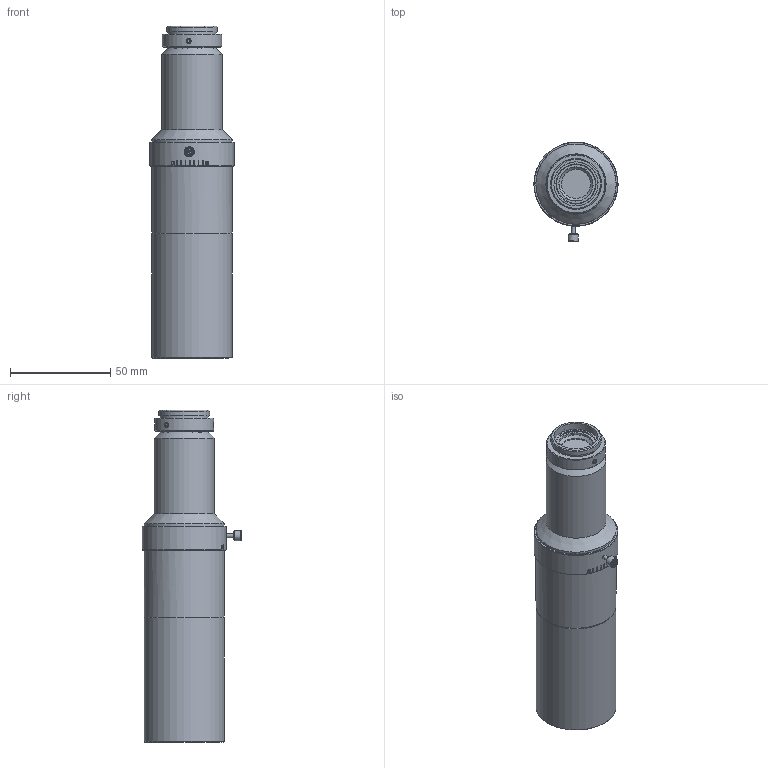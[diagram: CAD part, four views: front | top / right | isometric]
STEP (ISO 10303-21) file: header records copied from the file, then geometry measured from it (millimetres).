
FILE_DESCRIPTION(('STEP AP214'),'1');
FILE_NAME('TPC1-HMS110-VIE-FIL.stp','2024-09-17T01:56:03',(' '),(' '),'Spatial InterOp 3D',' ',' ');
FILE_SCHEMA(('AUTOMOTIVE_DESIGN { 1 0 10303 214 1 1 1 1 }'));
Length unit declared in the file: metre
Products named in the file (2): TPC1-HMS110-VIE-FIL; Component1
Assembly tree (1 placements, depth 2):
  TPC1-HMS110-VIE-FIL
    Component1
Bounding box: 42 x 49.82 x 165.48 mm (x, y, z)
Volume: 51098.5 mm3; surface area: 43295.2 mm2
Topology: 1 solids, 2 shells, 233 faces, 579 edges, 387 vertices
Faces by surface type: plane 85, bspline 53, cone 47, cylinder 43, sphere 4, torus 1
Full cylindrical faces by diameter (mm): 2 x1, 2.459 x3, 3.6 x1, 5 x1, 14.5 x1, 17 x1, 19.4 x1, 20 x2, 22 x1, 23 x1, 23.1 x1, 23.5 x1, 24 x1, 24.1 x1, 25.3 x1, 26 x1, 29.5 x1, 30 x1, 32 x2, 35 x1, 36.4 x1, 36.9 x2, 37.1 x1, 38 x1, 40 x3, 42 x1
Entity records: 15511 total; most frequent: CARTESIAN_POINT 6478, ORIENTED_EDGE 978, DIRECTION 772, STYLED_ITEM 723, PRESENTATION_STYLE_ASSIGNMENT 723, COLOUR_RGB 723, EDGE_CURVE 489, CURVE_STYLE 489
